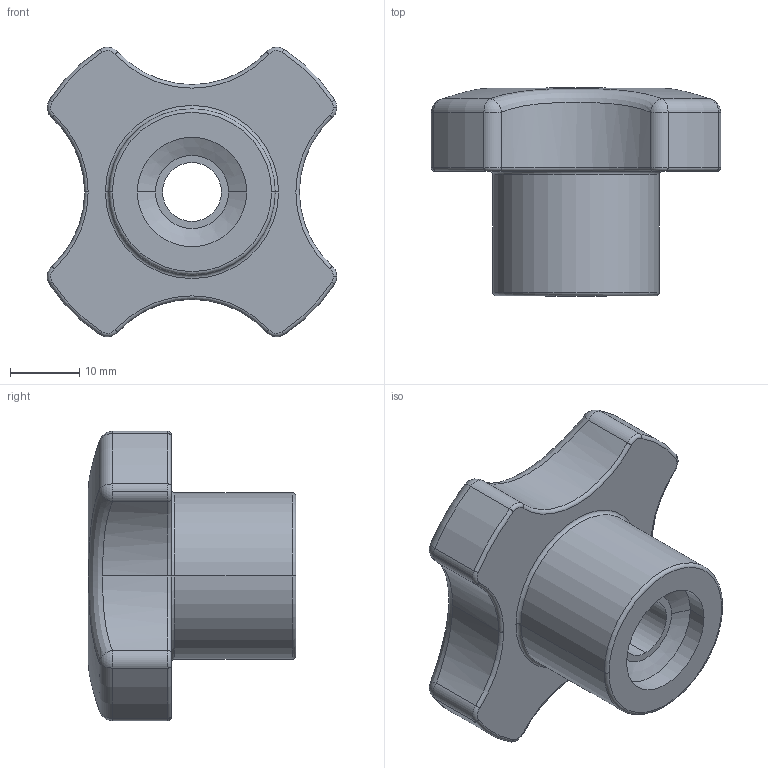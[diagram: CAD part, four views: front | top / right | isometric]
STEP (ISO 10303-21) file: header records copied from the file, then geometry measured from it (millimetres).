
FILE_DESCRIPTION (( 'STEP AP203' ), '1' );
FILE_NAME ('13.20003.STEP', '2012-12-19T16:42:52', ( 'Ricardo' ), ( '' ), 'SwSTEP 2.0', 'SolidWorks 2012', '' );
FILE_SCHEMA (( 'CONFIG_CONTROL_DESIGN' ));
Length unit declared in the file: millimetre
Products named in the file (1): 13.20003
Bounding box: 41.8 x 30 x 41.79 mm (x, y, z)
Volume: 19773.2 mm3; surface area: 6453 mm2
Topology: 1 solids, 1 shells, 77 faces, 166 edges, 94 vertices
Faces by surface type: torus 29, cylinder 27, sphere 8, plane 5, cone 4, bspline 4
Entity records: 2722 total; most frequent: CARTESIAN_POINT 913, DIRECTION 427, ORIENTED_EDGE 332, AXIS2_PLACEMENT_3D 198, EDGE_CURVE 166, CIRCLE 124, VERTEX_POINT 94, EDGE_LOOP 82
